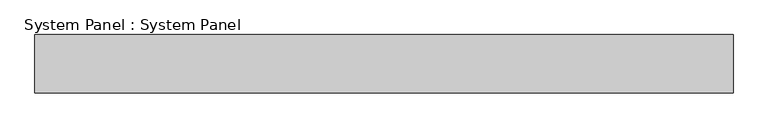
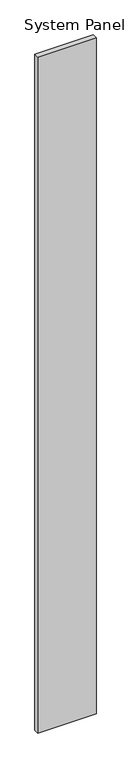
"""IFC4 building model written with IfcOpenShell, lengths in millimetres: plate geometry, System Panel : System Panel."""

from ifc_helpers import new_model, si_unit, origin, origin_with_axes, place, context, project, spatial, polyline, outline, extrude, source, transform, mapped, element, save


def system_panel_system_panel_165921ea(model_context):
    return source(origin(), model_context, "Body", "SweptSolid", [
        extrude(outline(polyline([(609.5367635, -50.8), (-609.5367635, -50.8), (-609.5367635, 50.8), (609.5367635, 50.8), (609.5367635, -50.8)])), origin_with_axes(), (0.0, 0.0, 1.0), 14935.2),
    ])


if __name__ == "__main__":
    model = new_model("IFC4")
    model_context = context("Model", 3, world=origin())
    ifc_project = project(units=[si_unit("LENGTHUNIT", "METRE", prefix="MILLI")], contexts=[model_context])
    site = spatial("IfcSite", under=ifc_project)
    building = spatial("IfcBuilding", under=site)
    placement = place(None, origin())
    system_panel_system_panel_shape = system_panel_system_panel_165921ea(model_context)
    element("IfcPlate", 1, ObjectType="System Panel : System Panel", at=placement, inside=building, context=model_context, shape_type="MappedRepresentation", body=[
        mapped(system_panel_system_panel_shape, transform((0.0, 0.0, 0.0), x_axis=(1.0, 0.0, 0.0), y_axis=(0.0, 1.0, 0.0), z_axis=(0.0, 0.0, 1.0))),
    ])
    save(model, "model.ifc")
